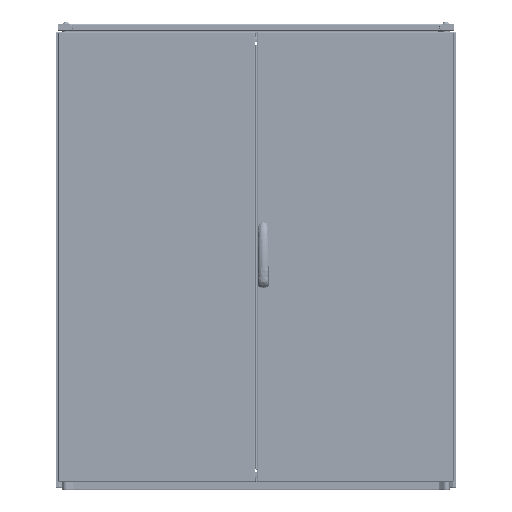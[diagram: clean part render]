
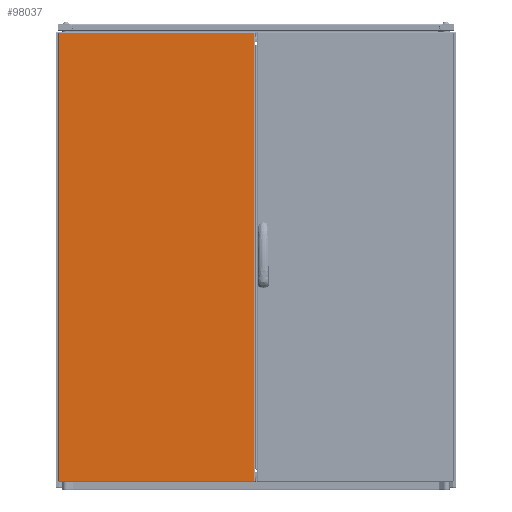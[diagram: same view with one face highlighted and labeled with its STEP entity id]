
A CAD part, top view. The second image highlights one B-rep face of the part: STEP entity #98037.
In plain terms, the highlighted planar face has unit normal (0, 0, 1).
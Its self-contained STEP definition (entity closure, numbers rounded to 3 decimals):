
#23644 = VECTOR ( 'NONE', #49728, 1000. ) ;
#45211 = CARTESIAN_POINT ( 'NONE',  ( 0., 3., 19. ) ) ;
#49728 = DIRECTION ( 'NONE',  ( -1., 0., 0. ) ) ;
#61398 = VECTOR ( 'NONE', #207256, 1000. ) ;
#71752 = LINE ( 'NONE', #148471, #61398 ) ;
#76469 = CARTESIAN_POINT ( 'NONE',  ( 0., 1357., 19. ) ) ;
#83911 = ORIENTED_EDGE ( 'NONE', *, *, #329049, .T. ) ;
#96746 = VERTEX_POINT ( 'NONE', #308953 ) ;
#98037 = ADVANCED_FACE ( 'NONE', ( #335783 ), #170045, .F. ) ;
#103205 = LINE ( 'NONE', #76469, #23644 ) ;
#122503 = CARTESIAN_POINT ( 'NONE',  ( 2.001, 3., 19. ) ) ;
#125492 = DIRECTION ( 'NONE',  ( 1., 0., 0. ) ) ;
#127659 = VERTEX_POINT ( 'NONE', #122503 ) ;
#143879 = CARTESIAN_POINT ( 'NONE',  ( 592., 1360., 19. ) ) ;
#148471 = CARTESIAN_POINT ( 'NONE',  ( 2.001, 3., 19. ) ) ;
#155999 = EDGE_CURVE ( 'NONE', #127659, #169530, #292932, .T. ) ;
#169530 = VERTEX_POINT ( 'NONE', #232843 ) ;
#170045 = PLANE ( 'NONE',  #304052 ) ;
#172747 = VECTOR ( 'NONE', #125492, 1000. ) ;
#172800 = EDGE_CURVE ( 'NONE', #96746, #127659, #71752, .T. ) ;
#195638 = DIRECTION ( 'NONE',  ( 0., 1., 0. ) ) ;
#199357 = EDGE_LOOP ( 'NONE', ( #83911, #255844, #307035, #321949 ) ) ;
#207256 = DIRECTION ( 'NONE',  ( 0., -1., 0. ) ) ;
#232843 = CARTESIAN_POINT ( 'NONE',  ( 592., 3., 19. ) ) ;
#253786 = DIRECTION ( 'NONE',  ( 0., 0., -1. ) ) ;
#255844 = ORIENTED_EDGE ( 'NONE', *, *, #172800, .T. ) ;
#267238 = CARTESIAN_POINT ( 'NONE',  ( 592., 1357., 19. ) ) ;
#280525 = DIRECTION ( 'NONE',  ( -1., 0., 0. ) ) ;
#292932 = LINE ( 'NONE', #45211, #172747 ) ;
#304052 = AXIS2_PLACEMENT_3D ( 'NONE', #339311, #253786, #280525 ) ;
#306092 = EDGE_CURVE ( 'NONE', #169530, #312807, #332857, .T. ) ;
#307035 = ORIENTED_EDGE ( 'NONE', *, *, #155999, .T. ) ;
#308953 = CARTESIAN_POINT ( 'NONE',  ( 2.001, 1357., 19. ) ) ;
#312807 = VERTEX_POINT ( 'NONE', #267238 ) ;
#317618 = VECTOR ( 'NONE', #195638, 1000. ) ;
#321949 = ORIENTED_EDGE ( 'NONE', *, *, #306092, .T. ) ;
#329049 = EDGE_CURVE ( 'NONE', #312807, #96746, #103205, .T. ) ;
#332857 = LINE ( 'NONE', #143879, #317618 ) ;
#335783 = FACE_OUTER_BOUND ( 'NONE', #199357, .T. ) ;
#339311 = CARTESIAN_POINT ( 'NONE',  ( 0., 1360., 19. ) ) ;
